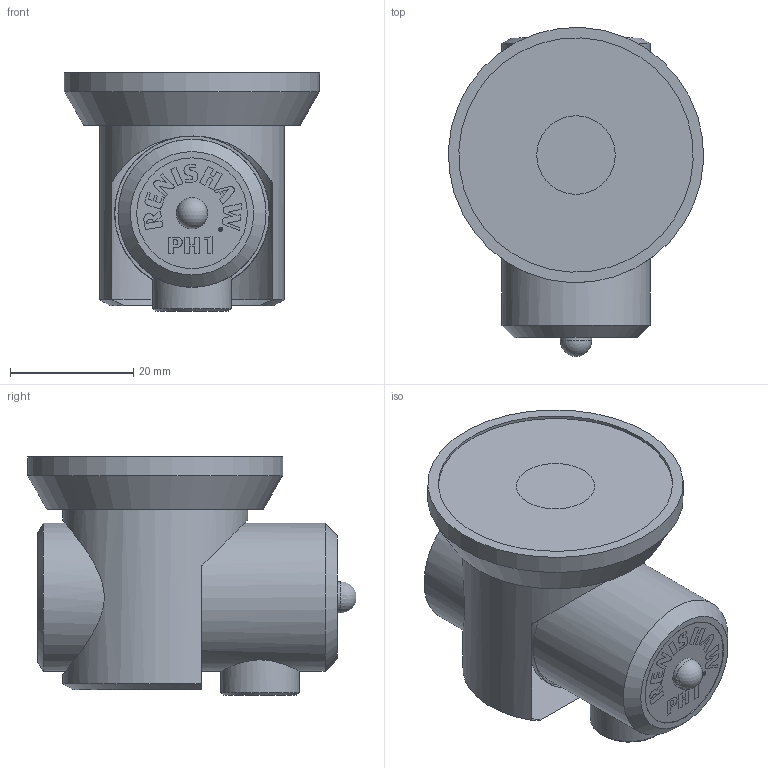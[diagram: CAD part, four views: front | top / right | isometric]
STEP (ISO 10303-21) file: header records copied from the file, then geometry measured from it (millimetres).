
FILE_DESCRIPTION(/* description */ (''),/* implementation_level */ '2;1');
FILE_NAME(/* name */ 'LA-1049-1795#-D.stp',/* time_stamp */ '2012-09-05T07:59:45+01:00',/* author */ (''),/* organization */ (''),/* preprocessor_version */ 'ST-DEVELOPER v11',/* originating_system */ 'SIEMENS PLM Software NX 7.5',/* authorisation */ '');
FILE_SCHEMA (('AUTOMOTIVE_DESIGN { 1 0 10303 214 1 1 1 1 }'));
Length unit declared in the file: millimetre
Products named in the file (1): rt13B55Av586
Bounding box: 41.36 x 53.31 x 38.58 mm (x, y, z)
Volume: 37765.3 mm3; surface area: 13971.1 mm2
Topology: 3 solids, 3 shells, 57 faces, 251 edges, 226 vertices
Faces by surface type: plane 36, cylinder 15, cone 4, bspline 1, sphere 1
Full cylindrical faces by diameter (mm): 5.08 x1, 12.75 x1, 15.93 x1, 16.05 x1, 16.07 x1, 17.95 x1, 24 x2, 25.05 x2, 30 x1, 31 x1, 38 x1, 41.4 x1
Entity records: 3358 total; most frequent: CARTESIAN_POINT 1069, ORIENTED_EDGE 440, DIRECTION 286, EDGE_CURVE 220, VERTEX_POINT 216, EDGE_LOOP 106, LINE 104, VECTOR 104
